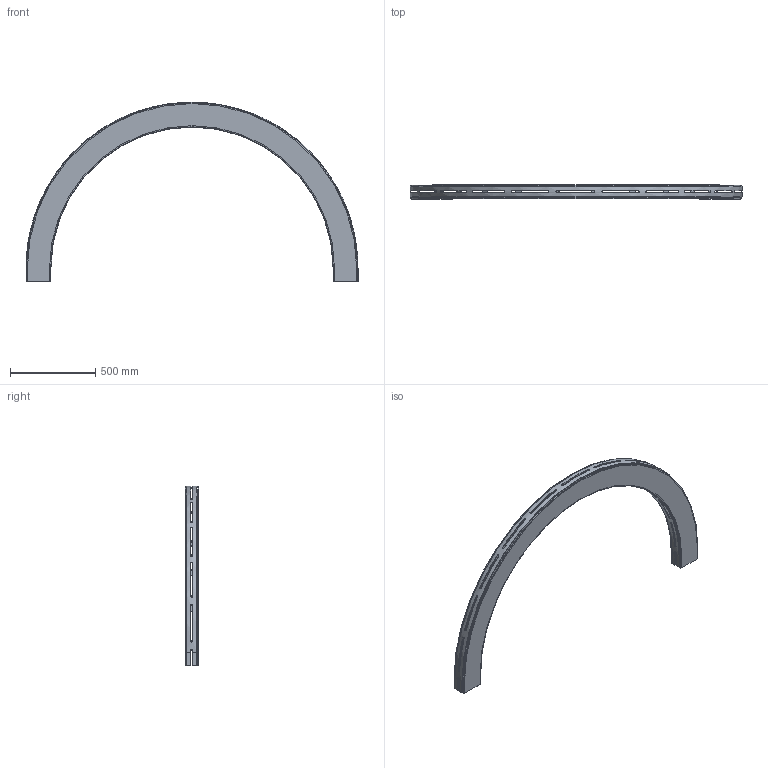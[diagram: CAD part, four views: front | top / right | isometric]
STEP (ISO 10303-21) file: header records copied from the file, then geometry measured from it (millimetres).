
FILE_DESCRIPTION(/* description */ ('GLIDKURVA SERIE 540'),/* implementation_level */ '2;1');
FILE_NAME(/* name */ '540-5375+140-2000-01.stp',/* time_stamp */ '2022-09-21T09:52:03+02:00',/* author */ ('Mathias.Dore'),/* organization */ ('CARRYLINE'),/* preprocessor_version */ 'ST-DEVELOPER v19.2',/* originating_system */ 'Autodesk Inventor 2023',/* authorisation */ '');
FILE_SCHEMA (('AUTOMOTIVE_DESIGN { 1 0 10303 214 3 1 1 }'));
Length unit declared in the file: millimetre
Products named in the file (1): 540-5375+140-2000-01
Bounding box: 1946 x 82 x 1053 mm (x, y, z)
Volume: 6745767.9 mm3; surface area: 3462062.1 mm2
Topology: 2 solids, 2 shells, 255 faces, 722 edges, 476 vertices
Faces by surface type: plane 157, bspline 62, cylinder 28, cone 4, torus 4
Entity records: 10921 total; most frequent: CARTESIAN_POINT 4384, ORIENTED_EDGE 1444, DIRECTION 1154, EDGE_CURVE 722, VERTEX_POINT 476, LINE 430, VECTOR 430, AXIS2_PLACEMENT_3D 362
